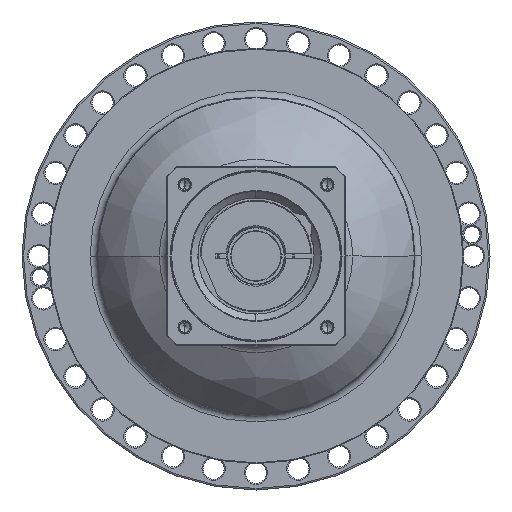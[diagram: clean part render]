
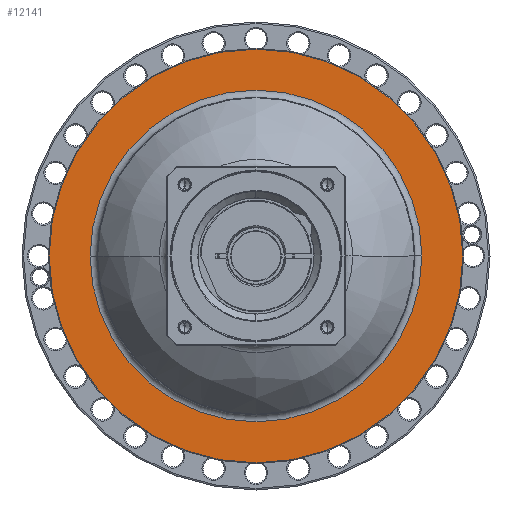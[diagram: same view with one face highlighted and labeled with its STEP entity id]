
A CAD part, left-side view. The second image highlights one B-rep face of the part: STEP entity #12141.
In plain terms, the highlighted planar face has unit normal (-1, 0, 0) as drawn and (1, 0, 0) by its records, which use the part's own axes.
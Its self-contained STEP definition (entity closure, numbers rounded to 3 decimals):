
#11644=CARTESIAN_POINT('',(-49.5,0.,0.));
#11645=DIRECTION('',(-1.,0.,0.));
#11646=DIRECTION('',(0.,1.,0.));
#11647=AXIS2_PLACEMENT_3D('',#11644,#11645,#11646);
#11659=CARTESIAN_POINT('',(-49.5,0.,0.));
#11660=DIRECTION('',(1.,0.,0.));
#11661=DIRECTION('',(0.,1.,0.));
#11662=AXIS2_PLACEMENT_3D('',#11659,#11660,#11661);
#11664=CARTESIAN_POINT('',(-49.5,0.,0.));
#11665=DIRECTION('',(-1.,0.,0.));
#11666=DIRECTION('',(0.,-1.,0.));
#11667=AXIS2_PLACEMENT_3D('',#11664,#11665,#11666);
#11669=CARTESIAN_POINT('',(-49.5,0.,0.));
#11670=DIRECTION('',(-1.,0.,0.));
#11671=DIRECTION('',(0.,1.,0.));
#11672=AXIS2_PLACEMENT_3D('',#11669,#11670,#11671);
#11794=CARTESIAN_POINT('',(-49.5,-133.5,0.));
#11795=CARTESIAN_POINT('',(-49.5,133.5,0.));
#11796=VERTEX_POINT('',#11794);
#11797=VERTEX_POINT('',#11795);
#11818=CARTESIAN_POINT('',(-49.5,107.,0.));
#11819=CARTESIAN_POINT('',(-49.5,-107.,0.));
#11820=VERTEX_POINT('',#11818);
#11821=VERTEX_POINT('',#11819);
#12126=CARTESIAN_POINT('',(-49.5,0.,0.));
#12127=DIRECTION('',(1.,0.,0.));
#12128=DIRECTION('',(0.,-1.,0.));
#12129=AXIS2_PLACEMENT_3D('',#12126,#12127,#12128);
#12130=PLANE('',#12129);
#12132=ORIENTED_EDGE('',*,*,#12131,.T.);
#12134=ORIENTED_EDGE('',*,*,#12133,.T.);
#12135=EDGE_LOOP('',(#12132,#12134));
#12136=FACE_OUTER_BOUND('',#12135,.F.);
#12137=ORIENTED_EDGE('',*,*,#12120,.T.);
#12138=ORIENTED_EDGE('',*,*,#12106,.F.);
#12139=EDGE_LOOP('',(#12137,#12138));
#12140=FACE_BOUND('',#12139,.F.);
#12141=ADVANCED_FACE('',(#12136,#12140),#12130,.T.);
#11648=CIRCLE('',#11647,107.);
#11663=CIRCLE('',#11662,107.);
#11668=CIRCLE('',#11667,133.5);
#11673=CIRCLE('',#11672,133.5);
#12106=EDGE_CURVE('',#11820,#11821,#11648,.T.);
#12120=EDGE_CURVE('',#11820,#11821,#11663,.T.);
#12131=EDGE_CURVE('',#11796,#11797,#11668,.T.);
#12133=EDGE_CURVE('',#11797,#11796,#11673,.T.);
